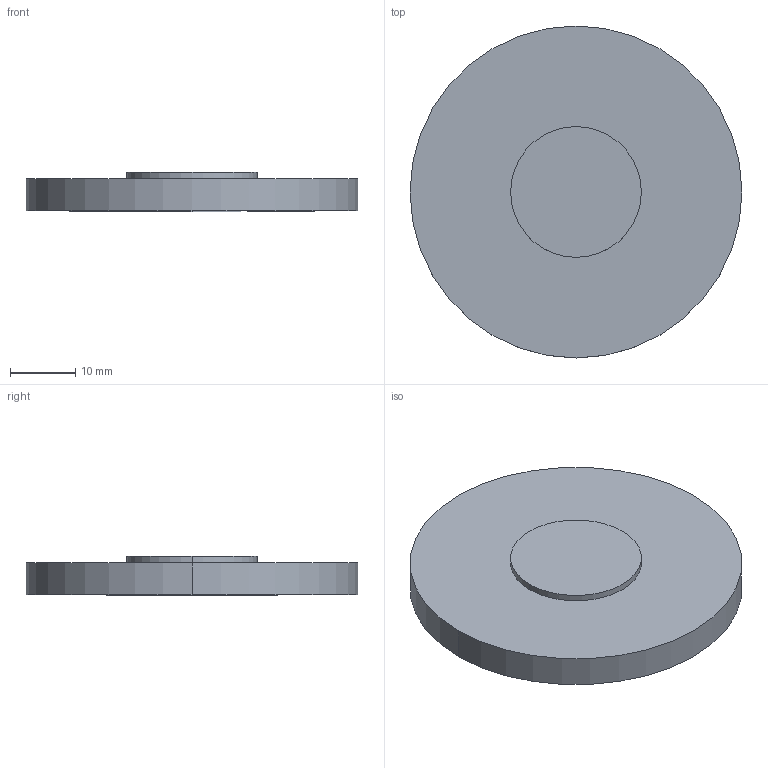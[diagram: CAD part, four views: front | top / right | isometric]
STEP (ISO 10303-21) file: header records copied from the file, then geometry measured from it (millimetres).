
FILE_DESCRIPTION(('STEP AP214'),'1');
FILE_NAME('LLF-51-5M.STEP','2020-03-09T17:41:28',(' '),(' '),'Spatial InterOp 3D',' ',' ');
FILE_SCHEMA(('AUTOMOTIVE_DESIGN { 1 0 10303 214 1 1 1 1 }'));
Length unit declared in the file: millimetre
Products named in the file (1): 1
Bounding box: 50.8 x 50.8 x 6 mm (x, y, z)
Volume: 10284.9 mm3; surface area: 5517.1 mm2
Topology: 2 solids, 2 shells, 9 faces, 16 edges, 9 vertices
Faces by surface type: cylinder 4, plane 3, sphere 2
Entity records: 229 total; most frequent: DIRECTION 46, CARTESIAN_POINT 34, ORIENTED_EDGE 28, AXIS2_PLACEMENT_3D 21, EDGE_CURVE 14, CIRCLE 10, ADVANCED_FACE 9, FACE_OUTER_BOUND 9
